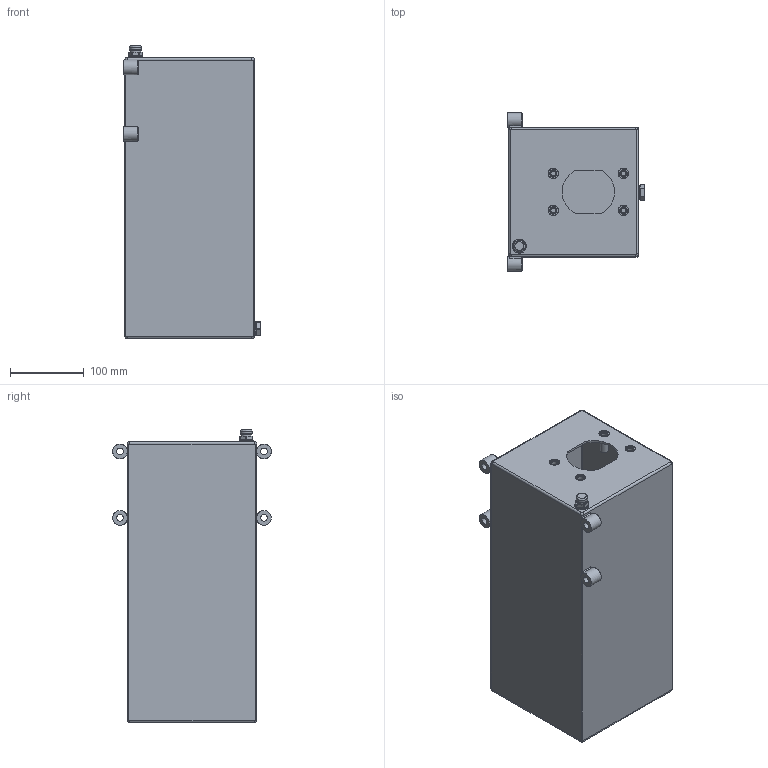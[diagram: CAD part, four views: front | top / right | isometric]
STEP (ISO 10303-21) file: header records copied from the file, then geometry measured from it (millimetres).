
FILE_DESCRIPTION (( 'STEP AP214' ), '1' );
FILE_NAME ('17900005.STEP', '2020-06-23T09:47:32', ( '' ), ( '' ), 'SwSTEP 2.0', 'SolidWorks 2017', '' );
FILE_SCHEMA (( 'AUTOMOTIVE_DESIGN' ));
Length unit declared in the file: millimetre
Products named in the file (1): 17900005
Bounding box: 185.5 x 215 x 396.5 mm (x, y, z)
Volume: 1228456.8 mm3; surface area: 639910.5 mm2
Topology: 1 solids, 1 shells, 207 faces, 499 edges, 318 vertices
Faces by surface type: plane 92, cylinder 71, cone 33, torus 10, bspline 1
Full cylindrical faces by diameter (mm): 1.5 x1, 5 x1, 6.647 x4, 8 x1, 9 x8, 11 x4, 13 x1, 13.5 x1, 14 x1, 16 x1, 17 x1, 18 x1, 19 x2, 20 x4
Entity records: 7740 total; most frequent: CARTESIAN_POINT 1001, DIRECTION 998, ORIENTED_EDGE 774, AXIS2_PLACEMENT_3D 420, EDGE_CURVE 387, EDGE_LOOP 308, VERTEX_POINT 273, FACE_OUTER_BOUND 241
